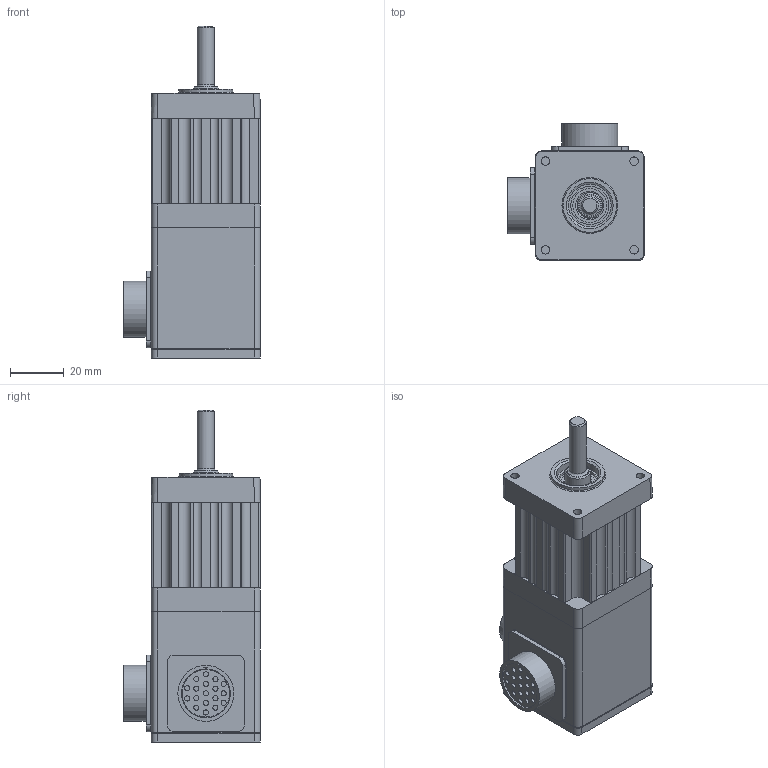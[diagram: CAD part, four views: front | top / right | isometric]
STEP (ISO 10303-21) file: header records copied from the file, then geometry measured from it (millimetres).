
FILE_DESCRIPTION((''),'2;1');
FILE_NAME('C:\CAD_work\Dummy_Modeling_Project_02-12-05\3D MODELS\SM160_MS_TQ.stp','2005-12-20T17:39:15',('jevans'),(''),'Autodesk Inventor 10','Autodesk Inventor 10','');
FILE_SCHEMA(('AUTOMOTIVE_DESIGN { 1 0 10303 214 1 1 1 1 }'));
Length unit declared in the file: inch
Products named in the file (1): SM16_MS_TQ
Bounding box: 51.03 x 50.98 x 123.7 mm (x, y, z)
Volume: 159212.3 mm3; surface area: 27709.8 mm2
Topology: 3 solids, 3 shells, 264 faces, 635 edges, 400 vertices
Faces by surface type: plane 124, cylinder 115, sphere 12, bspline 9, cone 3, torus 1
Full cylindrical faces by diameter (mm): 1.905 x26, 2.54 x4, 6.35 x1, 9.525 x2, 12.7 x1, 14.224 x1, 15.875 x1, 17.526 x1, 17.678 x1, 20.015 x1, 20.904 x2, 22.225 x1, 22.228 x1
Entity records: 7336 total; most frequent: CARTESIAN_POINT 1405, DIRECTION 1296, ORIENTED_EDGE 1076, EDGE_CURVE 538, AXIS2_PLACEMENT_3D 502, VERTEX_POINT 382, EDGE_LOOP 376, VECTOR 292
